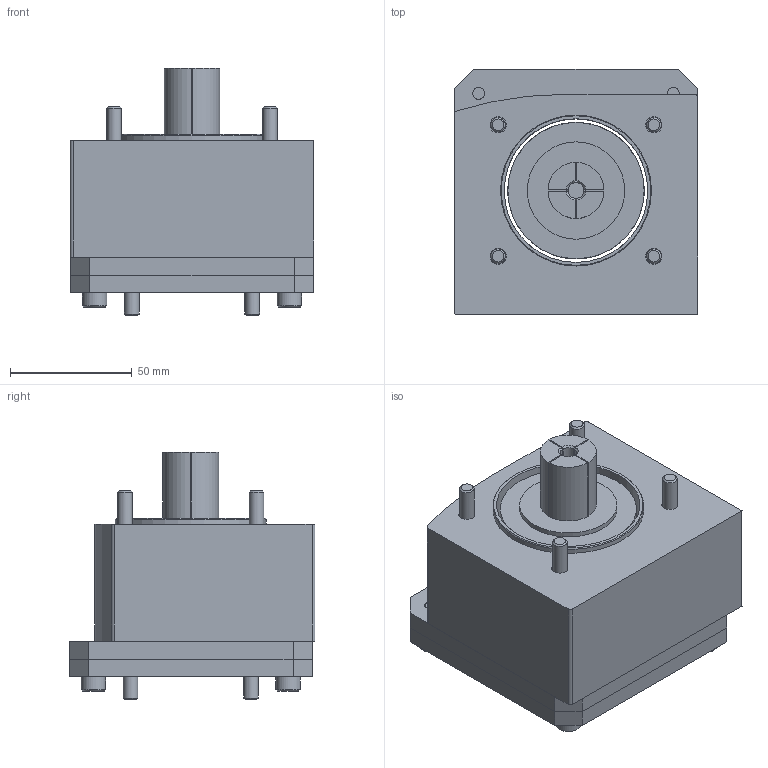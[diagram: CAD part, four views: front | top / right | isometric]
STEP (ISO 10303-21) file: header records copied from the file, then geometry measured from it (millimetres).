
FILE_DESCRIPTION(/* description */ ('EAMK-A O-Coupling housing'),/* implementation_level */ '2;1');
FILE_NAME(/* name */ 'C:\ホームページ用データ\SAMPLE_EGC-TB\モータ取付キット\3D\557989.stp',/* time_stamp */ '2015-03-16T14:58:17+09:00',/* author */ ('jp4te01'),/* organization */ ('FESTO'),/* preprocessor_version */ 'ST-DEVELOPER v15.2',/* originating_system */ 'Autodesk Inventor 2014',/* authorisation */ '');
FILE_SCHEMA (('AUTOMOTIVE_DESIGN { 1 0 10303 214 3 1 1 }'));
Length unit declared in the file: centimetre
Products named in the file (8): 558013_EAMK_A_L62_62A____1O_; 558021_EAMF_A_62A_80G_4A10_; 725028_EAMF_A_62A_80G; DIN_7984___M6x12_F_; DIN_912___M6x14_F_; DIN_6912___M6x65_F_; 558004_EAMD_56_46_20_23x27; 557989_EAMM_A_L62_80G
Bounding box: 100 x 101 x 101.5 mm (x, y, z)
Volume: 500307.7 mm3; surface area: 127990.8 mm2
Topology: 16 solids, 16 shells, 536 faces, 1293 edges, 807 vertices
Faces by surface type: plane 286, cylinder 124, cone 107, torus 19
Full cylindrical faces by diameter (mm): 3 x4, 4.917 x5, 6 x13, 6.6 x16, 10 x13, 11 x4, 13 x1, 26.2 x1, 40 x1, 56 x1, 59 x1, 60 x1, 62 x3, 65 x1
Entity records: 9965 total; most frequent: CARTESIAN_POINT 1940, DIRECTION 1695, ORIENTED_EDGE 1528, EDGE_CURVE 764, AXIS2_PLACEMENT_3D 647, VERTEX_POINT 531, EDGE_LOOP 461, LINE 401
